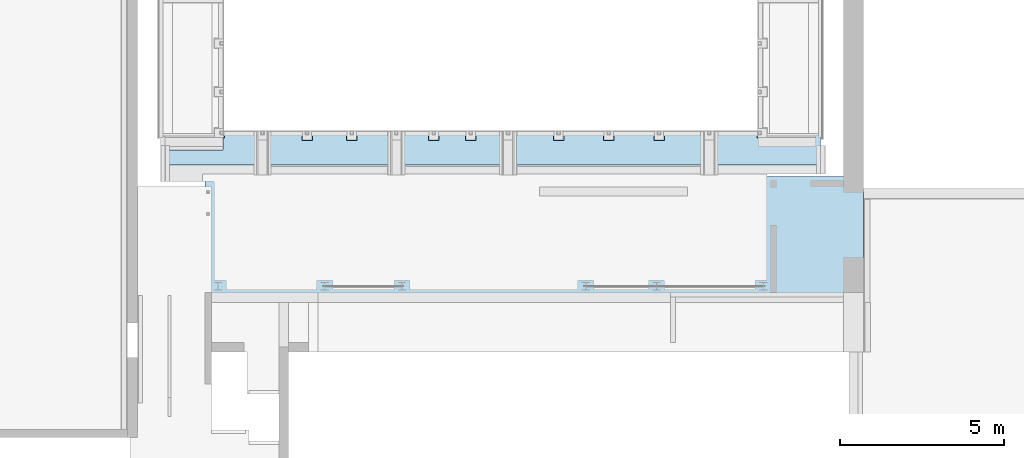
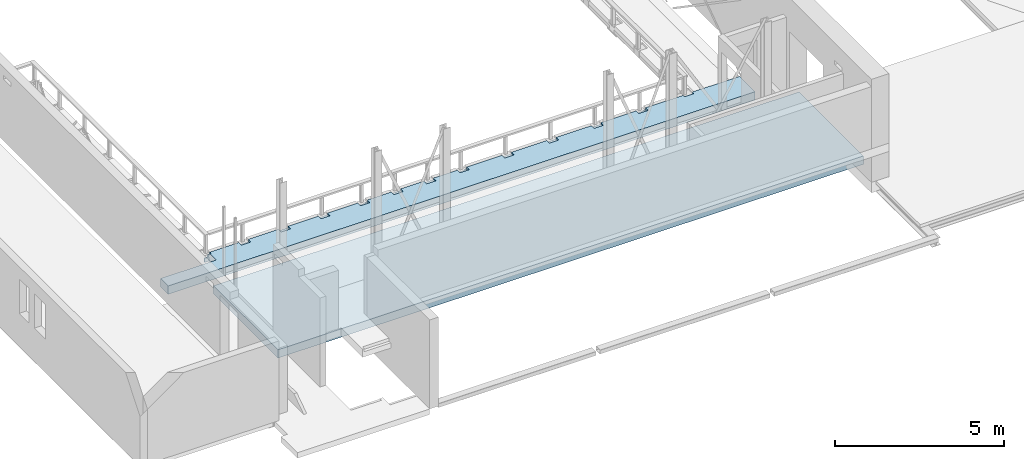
# One storey, part 59 of 68: 2 slabs.
"""IFC2X3 building model written with IfcOpenShell, lengths in millimetres."""

from ifc_helpers import new_model, entity, si_unit, converted_unit, derived_unit, direction, frame, origin, place, context, subcontext, project, spatial, faceted_brep, material, material_list, type_object, element, save


model = new_model("IFC2X3")

# Units and contexts
model_context = context("Model", 3, precision=0.01, world=origin(), true_north=direction((6.12303176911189e-17, 1.0)))
body_context = subcontext(model_context, "Body", "Model", "MODEL_VIEW")
ifc_project = project(units=[si_unit("LENGTHUNIT", "METRE", prefix="MILLI"), si_unit("AREAUNIT", "SQUARE_METRE", prefix="MILLI"), si_unit("VOLUMEUNIT", "CUBIC_METRE"), converted_unit("PLANEANGLEUNIT", "DEGREE", entity("IfcRatioMeasure", 0.0174532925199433), si_unit("PLANEANGLEUNIT", "RADIAN"), dimensions=[0, 0, 0, 0, 0, 0, 0]), si_unit("MASSUNIT", "GRAM", prefix="KILO"), derived_unit("MASSDENSITYUNIT", [(si_unit("MASSUNIT", "GRAM", prefix="KILO"), 1), (si_unit("LENGTHUNIT", "METRE"), -3)]), derived_unit("MOMENTOFINERTIAUNIT", [(si_unit("LENGTHUNIT", "METRE"), 4)]), si_unit("TIMEUNIT", "SECOND"), si_unit("FREQUENCYUNIT", "HERTZ"), si_unit("THERMODYNAMICTEMPERATUREUNIT", "DEGREE_CELSIUS"), derived_unit("THERMALTRANSMITTANCEUNIT", [(si_unit("MASSUNIT", "GRAM", prefix="KILO"), 1), (si_unit("THERMODYNAMICTEMPERATUREUNIT", "KELVIN"), -1), (si_unit("TIMEUNIT", "SECOND"), -3)]), derived_unit("VOLUMETRICFLOWRATEUNIT", [(si_unit("LENGTHUNIT", "METRE"), 3), (si_unit("TIMEUNIT", "SECOND"), -1)]), si_unit("ELECTRICCURRENTUNIT", "AMPERE"), si_unit("ELECTRICVOLTAGEUNIT", "VOLT"), si_unit("POWERUNIT", "WATT"), si_unit("FORCEUNIT", "NEWTON", prefix="KILO"), si_unit("ILLUMINANCEUNIT", "LUX"), si_unit("LUMINOUSFLUXUNIT", "LUMEN"), si_unit("LUMINOUSINTENSITYUNIT", "CANDELA"), derived_unit("USERDEFINED", [(si_unit("MASSUNIT", "GRAM", prefix="KILO"), -1), (si_unit("LENGTHUNIT", "METRE"), -2), (si_unit("TIMEUNIT", "SECOND"), 3), (si_unit("LUMINOUSFLUXUNIT", "LUMEN"), 1)]), derived_unit("LINEARVELOCITYUNIT", [(si_unit("LENGTHUNIT", "METRE"), 1), (si_unit("TIMEUNIT", "SECOND"), -1)]), si_unit("PRESSUREUNIT", "PASCAL"), derived_unit("USERDEFINED", [(si_unit("LENGTHUNIT", "METRE"), -2), (si_unit("MASSUNIT", "GRAM", prefix="KILO"), 1), (si_unit("TIMEUNIT", "SECOND"), -2)]), derived_unit("LINEARFORCEUNIT", [(si_unit("MASSUNIT", "GRAM", prefix="KILO"), 1), (si_unit("LENGTHUNIT", "METRE"), 1), (si_unit("TIMEUNIT", "SECOND"), -2), (si_unit("LENGTHUNIT", "METRE"), -1)]), derived_unit("PLANARFORCEUNIT", [(si_unit("MASSUNIT", "GRAM", prefix="KILO"), 1), (si_unit("LENGTHUNIT", "METRE"), 1), (si_unit("TIMEUNIT", "SECOND"), -2), (si_unit("LENGTHUNIT", "METRE"), -2)])], contexts=[model_context])

# Site, building, storey
site_placement = place(None, origin())
site = spatial("IfcSite", under=ifc_project, at=site_placement, Name="Theater aan de Parade", CompositionType="ELEMENT")
building_placement = place(site_placement, origin())
building = spatial("IfcBuilding", under=site, at=building_placement, Name="Theater aan de Parade", CompositionType="ELEMENT")
storey_placement = place(building_placement, frame((0.0, 0.0, 8750.0)))
storey = spatial("IfcBuildingStorey", under=building, at=storey_placement, Name="02 tweede verdieping", CompositionType="ELEMENT", Elevation=8750.0)

# Slabs
ifc_material_1 = material(Name="00_PBT_MAT_beton t.p.g._C30/37")
slab_type_1 = type_object("IfcSlabType", Name="Floor:28_PBT_FL_beton t.p.g._d=300_C30/37", PredefinedType="FLOOR")
slab_1_placement = place(storey_placement, origin())
element("IfcSlab", 1, at=slab_1_placement, inside=storey, type_object=slab_type_1, material=ifc_material_1, Name="Floor:28_PBT_FL_beton t.p.g._d=300_C30/37", ObjectType="Floor:28_PBT_FL_beton t.p.g._d=300_C30/37", PredefinedType="FLOOR", context=body_context, shape_type="Brep", body=[
    faceted_brep([(36853.8581300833, 18011.30845444, -550.0), (32090.858196, 17556.058446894, -550.0), (32090.858196, 17566.558446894, -550.0), (27590.858196, 17566.558446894, -550.0), (17403.8570025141, 18011.30845444, -550.0), (37453.8581300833, 14186.290696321, -550.0), (37453.8581300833, 17411.308446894, -550.0), (37453.8581300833, 18011.30845444, -550.0), (27590.858196, 17556.058446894, -550.0), (17403.8570025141, 14186.290696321, -550.0), (17403.8570025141, 17411.3084468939, -550.0), (17403.8570025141, 17711.3084468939, -550.0), (37453.8581300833, 14186.290696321, -250.0), (37453.8581300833, 17492.994375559, -250.0), (37453.8581300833, 17650.244375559, -250.0), (37453.8581300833, 18011.30845444, -250.0), (36853.8581300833, 18011.30845444, -250.0), (17403.8570025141, 18011.30845444, -250.0), (17403.8570025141, 17711.308446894, -250.0), (17403.8570025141, 14186.290696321, -250.0), (17603.8570025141, 14186.290696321, -250.0), (36853.8581300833, 14186.290696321, -250.0), (37453.8581300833, 14186.290696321, -460.0), (37453.8581300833, 14186.290696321, -285.0), (17403.8570025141, 14186.290696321, -290.0), (32090.858196, 17566.558446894, -392.0), (32090.858196, 17556.058446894, -392.0), (32090.858196, 17554.3010875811, -387.757359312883), (32090.858196, 17552.5437282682, -383.514718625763), (32090.858196, 17550.7863689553, -379.272077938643), (32090.858196, 17549.0290096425, -375.029437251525), (32090.858196, 17545.1311037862, -373.414871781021), (32090.858196, 17541.23319793, -371.800306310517), (32090.858196, 17536.645822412, -369.900153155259), (32090.858196, 17532.058446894, -368.0), (32090.858196, 17421.308446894, -368.0), (32090.858196, 17421.308446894, -350.0), (32090.858196, 17701.308446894, -350.0), (32090.858196, 17701.308446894, -368.0), (32090.858196, 17590.558446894, -368.0), (32090.858196, 17586.3158062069, -369.757359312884), (32090.858196, 17582.0731655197, -371.514718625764), (32090.858196, 17577.8305248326, -373.272077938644), (32090.858196, 17573.5878841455, -375.029437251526), (32090.858196, 17571.973318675, -378.927343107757), (32090.858196, 17570.3587532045, -382.825248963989), (32090.858196, 17568.4586000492, -387.412624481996), (27590.858196, 17566.558446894, -392.0), (27590.858196, 17568.4586000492, -387.412624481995), (27590.858196, 17570.0731655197, -383.514718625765), (27590.858196, 17571.8305248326, -379.272077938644), (27590.858196, 17573.5878841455, -375.029437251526), (27590.858196, 17577.8305248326, -373.272077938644), (27590.858196, 17582.0731655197, -371.514718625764), (27590.858196, 17585.971071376, -369.900153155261), (27590.858196, 17590.558446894, -368.0), (27590.858196, 17701.308446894, -368.0), (27590.858196, 17701.308446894, -350.0), (27590.858196, 17421.308446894, -350.0), (27590.858196, 17421.308446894, -368.0), (27590.858196, 17532.058446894, -368.0), (27590.858196, 17536.645822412, -369.900153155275), (27590.858196, 17540.5437282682, -371.514718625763), (27590.858196, 17544.7863689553, -373.272077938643), (27590.858196, 17549.0290096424, -375.029437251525), (27590.858196, 17550.7863689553, -379.272077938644), (27590.858196, 17552.5437282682, -383.514718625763), (27590.858196, 17554.1582937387, -387.412624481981), (27590.858196, 17556.058446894, -392.0)], [[[0, 1, 2]], [[0, 2, 3]], [[3, 4, 0]], [[0, 5, 1]], [[5, 0, 6]], [[6, 0, 7]], [[1, 5, 8]], [[9, 8, 5]], [[8, 9, 10]], [[11, 3, 10]], [[8, 10, 3]], [[4, 3, 11]], [[12, 13, 14, 15, 16, 17, 18, 19, 20, 21]], [[22, 5, 6, 7, 15, 14, 13, 12, 23]], [[9, 5, 22, 23, 12, 21, 20, 19, 24]], [[10, 9, 24, 19, 18, 17, 4, 11]], [[0, 4, 17, 16, 15, 7]], [[25, 2, 1, 26, 27, 28, 29, 30, 31, 32, 33, 34, 35, 36, 37, 38, 39, 40, 41, 42, 43, 44, 45, 46]], [[47, 48, 49, 50, 51, 52, 53, 54, 55, 56, 57, 58, 59, 60, 61, 62, 63, 64, 65, 66, 67, 68, 8, 3]], [[58, 36, 35, 59]], [[59, 35, 34, 60]], [[55, 39, 38, 56]], [[32, 31, 30, 64, 63, 62, 61, 60, 34, 33]], [[64, 30, 29, 28, 27, 26, 68, 67, 66, 65]], [[68, 26, 1, 8]], [[3, 2, 25, 47]], [[45, 44, 43, 51, 50, 49, 48, 47, 25, 46]], [[51, 43, 42, 41, 40, 39, 55, 54, 53, 52]], [[57, 56, 38, 37]], [[58, 57, 37, 36]]]),
])
ifc_material_2 = material(Name="00_PBT_MAT_staal")
ifc_material_list = material_list([ifc_material_1, ifc_material_2])
slab_type_2 = type_object("IfcSlabType", Name="Floor:28_PBT_FL_staalplaatbeton_d=300_C30/37", PredefinedType="FLOOR")
slab_2_placement = place(storey_placement, origin())
element("IfcSlab", 2, at=slab_2_placement, inside=storey, type_object=slab_type_2, material=ifc_material_list, Name="Floor:28_PBT_FL_staalplaatbeton_d=300_C30/37", ObjectType="Floor:28_PBT_FL_staalplaatbeton_d=300_C30/37", PredefinedType="FLOOR", context=body_context, shape_type="Brep", body=[
    faceted_brep([(17825.8570032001, 19278.2922985, -300.0), (17945.8570032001, 19278.2922985, -300.0), (17945.8570032, 19243.2922985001, -300.0), (17825.8570032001, 19243.2922985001, -300.0), (34588.8574772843, 19278.2922984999, -300.0), (35788.8574772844, 19278.2922984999, -300.0), (36153.8581300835, 19278.2922984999, -300.0), (36153.8581300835, 18361.305865, -300.0), (16053.8570032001, 18361.305865, -300.0), (16053.8570032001, 18816.305865, -300.0), (17960.8570032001, 18816.305865, -300.0), (17960.8570032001, 19063.0422985, -300.0), (17960.8570032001, 19073.5422985, -300.0), (17960.8570032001, 19228.2922985, -300.0), (17960.8570032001, 19266.30672969, -300.0), (17983.8570032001, 19266.30672969, -300.0), (17983.8570032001, 19378.308446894, -300.0), (19016.8570058, 19378.308446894, -300.0), (19016.8570058, 19266.30672969, -300.0), (23372.8581798, 19266.30672969, -300.0), (23372.8581798, 19378.3084468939, -300.0), (26495.3581839, 19378.3084468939, -300.0), (26495.3581839, 19266.30672969, -300.0), (26775.3581839, 19266.30672969, -300.0), (26775.3581839, 19378.3084468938, -300.0), (32620.358192, 19378.3084468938, -300.0), (32620.358192, 19266.30672969, -300.0), (32900.358192, 19266.30672969, -300.0), (32900.358192, 19378.3084468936, -300.0), (34223.8569737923, 19378.3084468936, -300.0), (34223.8569737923, 19266.30672969, -300.0), (34246.8569737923, 19266.30672969, -300.0), (34246.8569737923, 19278.2922984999, -300.0), (34261.8569737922, 19278.2922984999, -300.0), (34381.8569737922, 19278.2922984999, -300.0), (19016.8570058, 19393.308446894, -285.0), (17983.8570032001, 19393.308446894, -285.0), (17983.8570032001, 19393.308446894, -165.0), (19016.8570058, 19393.308446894, -165.0), (34223.8569737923, 19393.308446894, -285.0), (32900.358192, 19393.308446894, -285.0), (32900.358192, 19393.308446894, -165.0), (34223.8569737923, 19393.308446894, -165.0), (32620.358192, 19393.308446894, -285.0), (26775.3581839, 19393.308446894, -285.0), (26775.3581839, 19393.308446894, -165.0), (32620.358192, 19393.308446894, -165.0), (26495.3581839, 19393.308446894, -285.0), (23372.8581798, 19393.308446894, -285.0), (23372.8581798, 19393.308446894, -165.0), (26495.3581839, 19393.308446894, -165.0), (36153.8581300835, 18361.305865, 0.0), (36153.8581300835, 19278.2922984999, 0.0), (35788.8574772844, 19278.2922984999, 0.0), (34588.8574772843, 19278.2922984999, 0.0), (34531.8569737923, 19278.2922984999, 0.0), (34531.8569737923, 19183.3084468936, 0.0), (34211.8569737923, 19183.3084468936, 0.0), (34211.8569737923, 19266.30672969, 0.0), (32920.358192, 19266.30672969, 0.0), (32920.358192, 19108.3084468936, 0.0), (32600.358192, 19108.3084468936, 0.0), (32600.358192, 19266.30672969, 0.0), (31390.358192, 19266.30672969, 0.0), (31390.358192, 19108.3084468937, 0.0), (31070.358192, 19108.3084468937, 0.0), (31070.358192, 19266.30672969, 0.0), (29860.358192, 19266.30672969, 0.0), (29860.358192, 19108.3084468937, 0.0), (29540.358192, 19108.3084468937, 0.0), (29540.358192, 19266.30672969, 0.0), (28330.358192, 19266.30672969, 0.0), (28330.358192, 19108.3084468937, 0.0), (28010.358192, 19108.3084468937, 0.0), (28010.358192, 19266.30672969, 0.0), (26795.8581798, 19266.30672969, 0.0), (26795.8581798, 19108.3084468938, 0.0), (26475.8581798, 19108.3084468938, 0.0), (26475.8581798, 19266.30672969, 0.0), (25655.8581798, 19266.30672969, 0.0), (25655.8581798, 19108.3084468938, 0.0), (25335.8581798, 19108.3084468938, 0.0), (25335.8581798, 19266.30672969, 0.0), (24532.8581798, 19266.30672969, 0.0), (24532.8581798, 19108.3084468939, 0.0), (24212.8581798, 19108.3084468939, 0.0), (24212.8581798, 19266.30672969, 0.0), (23392.8581798, 19266.30672969, 0.0), (23392.8581798, 19108.3084468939, 0.0), (23072.8581798, 19108.3084468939, 0.0), (23072.8581798, 19266.30672969, 0.0), (22032.8581798, 19266.30672969, 0.0), (22032.8581798, 19108.3084468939, 0.0), (21712.8581798, 19108.3084468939, 0.0), (21712.8581798, 19266.30672969, 0.0), (20672.8581798, 19266.30672969, 0.0), (20672.8581798, 19108.308446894, 0.0), (20352.8581798, 19108.308446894, 0.0), (20352.8581798, 19266.30672969, 0.0), (19316.8570058, 19266.30672969, 0.0), (19316.8570058, 19108.308446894, 0.0), (18996.8570058, 19108.308446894, 0.0), (18996.8570058, 19266.30672969, 0.0), (17995.8570032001, 19266.30672969, 0.0), (17995.8570032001, 19183.308446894, 0.0), (17960.8570032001, 19183.308446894, 0.0), (17960.8570032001, 18816.305865, 0.0), (16053.8570032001, 18816.305865, 0.0), (16053.8570032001, 18361.305865, 0.0), (34246.8569737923, 19278.2922984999, -285.0), (34246.8569737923, 19278.2922984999, -165.0), (34246.8569737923, 19278.2922984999, -60.0), (34531.8569737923, 19278.2922984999, -60.0), (17814.1520519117, 19278.2922985, -292.954951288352), (17813.0537023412, 19278.2922985, -290.303300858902), (17811.9553527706, 19278.2922985, -287.651650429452), (17810.8570032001, 19278.2922985, -285.0), (17810.8570032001, 19278.2922985, -165.0), (17811.9553527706, 19278.2922985, -162.348349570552), (17813.0537023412, 19278.2922985, -159.6966991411), (17814.1520519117, 19278.2922985, -157.04504871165), (17815.2504014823, 19278.2922985, -154.393398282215), (17817.9020519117, 19278.2922985, -153.295048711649), (17820.5537023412, 19278.2922985, -152.1966991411), (17823.5802349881, 19278.2922985, -150.943068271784), (17825.8570032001, 19278.2922985, -150.0), (17945.8570032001, 19278.2922985, -150.0), (17948.5086536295, 19278.2922985, -151.098349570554), (17951.160304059, 19278.2922985, -152.196699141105), (17953.8119544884, 19278.2922985, -153.295048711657), (17956.4636049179, 19278.2922985, -154.393398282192), (17957.5619544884, 19278.2922985, -157.045048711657), (17958.660304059, 19278.2922985, -159.696699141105), (17959.9139349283, 19278.2922985, -162.723231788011), (17960.8570032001, 19278.2922985, -165.0), (17960.8570032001, 19278.2922985, -285.0), (17958.9708666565, 19278.2922985, -289.553536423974), (17957.7172357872, 19278.2922985, -292.580069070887), (17956.4636049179, 19278.2922985, -295.606601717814), (17953.4370722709, 19278.2922985, -296.860232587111), (17950.410539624, 19278.2922985, -298.113863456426), (17823.2053527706, 19278.2922985, -298.901650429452), (17820.5537023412, 19278.2922985, -297.803300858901), (17817.9020519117, 19278.2922985, -296.704951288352), (17815.2504014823, 19278.2922985, -295.606601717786), (17983.8570032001, 19266.30672969, -150.0), (17983.8570032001, 19378.308446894, -150.0), (17983.8570032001, 19380.7769661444, -151.0224941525), (17983.8570032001, 19383.2454853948, -152.044988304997), (17983.8570032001, 19386.0802670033, -153.219193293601), (17983.8570032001, 19388.9150486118, -154.393398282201), (17983.8570032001, 19390.0133981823, -157.045048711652), (17983.8570032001, 19391.1117477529, -159.696699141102), (17983.8570032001, 19392.2100973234, -162.348349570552), (17983.8570032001, 19392.2859527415, -287.468519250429), (17983.8570032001, 19391.263458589, -289.937038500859), (17983.8570032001, 19390.0892536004, -292.771820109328), (17983.8570032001, 19388.9150486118, -295.6066017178), (17983.8570032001, 19386.2633981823, -296.704951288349), (17983.8570032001, 19383.6117477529, -297.803300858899), (17983.8570032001, 19380.9600973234, -298.90165042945), (34246.8569737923, 19266.30672969, -60.0), (17960.8570032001, 19266.30672969, -165.0), (17960.8570032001, 19266.30672969, -285.0), (32620.358192, 19266.30672969, -150.0), (26775.3581839, 19266.30672969, -150.0), (26495.3581839, 19266.30672969, -150.0), (23372.8581798, 19266.30672969, -150.0), (19016.8570058, 19266.30672969, -150.0), (17960.8570032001, 19266.30672969, -60.0), (17995.8570032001, 19266.30672969, -60.0), (18996.8570058, 19266.30672969, -85.0), (19316.8570058, 19266.30672969, -85.0), (20352.8581798, 19266.30672969, -60.0), (20672.8581798, 19266.30672969, -60.0), (21712.8581798, 19266.30672969, -60.0), (22032.8581798, 19266.30672969, -60.0), (23072.8581798, 19266.30672969, -85.0), (23392.8581798, 19266.30672969, -85.0), (24212.8581798, 19266.30672969, -60.0), (24532.8581798, 19266.30672969, -60.0), (25335.8581798, 19266.30672969, -60.0), (25655.8581798, 19266.30672969, -60.0), (26475.8581798, 19266.30672969, -85.0), (26795.8581798, 19266.30672969, -85.0), (28010.358192, 19266.30672969, -60.0), (28330.358192, 19266.30672969, -60.0), (29540.358192, 19266.30672969, -60.0), (29860.358192, 19266.30672969, -60.0), (31070.358192, 19266.30672969, -60.0), (31390.358192, 19266.30672969, -60.0), (32600.358192, 19266.30672969, -85.0), (32920.358192, 19266.30672969, -85.0), (34211.8569737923, 19266.30672969, -60.0), (34223.8569737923, 19266.30672969, -150.0), (32900.358192, 19266.30672969, -150.0), (23372.8581798, 19378.3084468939, -150.0), (23372.8581798, 19380.9600973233, -151.098349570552), (23372.8581798, 19383.6117477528, -152.196699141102), (23372.8581798, 19386.2633981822, -153.295048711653), (23372.8581798, 19388.9150486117, -154.393398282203), (23372.8581798, 19390.0133981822, -157.045048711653), (23372.8581798, 19391.1117477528, -159.696699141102), (23372.8581798, 19391.955381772, -161.733411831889), (23372.8581798, 19392.2100973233, -287.651650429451), (23372.8581798, 19391.1117477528, -290.3033008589), (23372.8581798, 19390.0133981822, -292.95495128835), (23372.8581798, 19388.9150486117, -295.6066017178), (23372.8581798, 19386.2633981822, -296.70495128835), (23372.8581798, 19383.6117477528, -297.8033008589), (23372.8581798, 19381.575035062, -298.64693487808), (26495.3581839, 19392.2100973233, -162.348349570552), (26495.3581839, 19391.1117477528, -159.696699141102), (26495.3581839, 19390.0133981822, -157.045048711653), (26495.3581839, 19388.9150486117, -154.393398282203), (26495.3581839, 19384.8416232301, -152.706130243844), (26495.3581839, 19381.575035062, -151.353065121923), (26495.3581839, 19378.3084468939, -150.0), (26495.3581839, 19380.9600973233, -298.901650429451), (26495.3581839, 19383.6117477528, -297.8033008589), (26495.3581839, 19386.2633981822, -296.70495128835), (26495.3581839, 19388.9150486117, -295.6066017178), (26495.3581839, 19390.60231665, -291.533176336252), (26495.3581839, 19391.9553817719, -288.266588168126), (32620.358192, 19378.3084468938, -150.0), (26775.3581839, 19378.3084468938, -150.0), (19016.8570058, 19378.308446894, -150.0), (34223.8569737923, 19378.3084468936, -150.0), (32900.358192, 19378.3084468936, -150.0), (17945.8570032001, 19243.2922985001, -150.0), (17825.8570032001, 19243.2922985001, -150.0), (26775.3581839, 19380.9600973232, -151.098349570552), (26775.3581839, 19383.6117477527, -152.196699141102), (26775.3581839, 19386.2633981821, -153.295048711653), (26775.3581839, 19388.9150486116, -154.393398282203), (26775.3581839, 19390.0133981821, -157.045048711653), (26775.3581839, 19391.1117477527, -159.696699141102), (26775.3581839, 19392.5015416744, -163.051958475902), (26775.3581839, 19392.2100973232, -287.651650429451), (26775.3581839, 19391.1117477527, -290.3033008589), (26775.3581839, 19390.0133981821, -292.954951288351), (26775.3581839, 19388.9150486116, -295.6066017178), (26775.3581839, 19386.2633981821, -296.70495128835), (26775.3581839, 19383.6117477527, -297.8033008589), (26775.3581839, 19380.2564884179, -299.193094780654), (32620.358192, 19392.2100973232, -162.348349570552), (32620.358192, 19391.1117477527, -159.696699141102), (32620.358192, 19390.0133981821, -157.045048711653), (32620.358192, 19388.9150486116, -154.393398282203), (32620.358192, 19385.5597892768, -153.00360436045), (32620.358192, 19382.204529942, -151.613810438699), (32620.358192, 19380.9600973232, -298.901650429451), (32620.358192, 19383.6117477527, -297.8033008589), (32620.358192, 19386.2633981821, -296.704951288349), (32620.358192, 19388.9150486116, -295.6066017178), (32620.358192, 19390.3048425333, -292.251342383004), (32620.358192, 19391.6946364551, -288.896083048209), (17948.5086536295, 19243.2922985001, -298.90165042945), (17951.160304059, 19243.2922985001, -297.803300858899), (17953.8119544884, 19243.2922985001, -296.704951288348), (17956.4636049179, 19243.2922985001, -295.606601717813), (17957.5619544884, 19243.2922985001, -292.954951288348), (17958.660304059, 19243.2922985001, -290.3033008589), (17959.9139349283, 19243.2922985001, -287.276768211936), (17960.8570032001, 19243.2922985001, -285.0), (17960.8570032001, 19243.2922985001, -165.0), (17958.9708666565, 19243.2922985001, -160.446463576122), (17957.7172357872, 19243.2922985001, -157.419930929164), (17956.4636049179, 19243.2922985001, -154.393398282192), (17953.4370722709, 19243.2922985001, -153.139767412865), (17950.4105396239, 19243.2922985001, -151.886136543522), (17823.2053527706, 19243.2922985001, -151.098349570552), (17820.5537023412, 19243.2922985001, -152.196699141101), (17817.9020519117, 19243.2922985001, -153.295048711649), (17815.2504014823, 19243.2922985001, -154.393398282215), (17813.9967706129, 19243.2922985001, -157.419930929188), (17812.7431397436, 19243.2922985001, -160.446463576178), (17810.8570032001, 19243.2922985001, -165.0), (17810.8570032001, 19243.2922985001, -285.0), (17811.9553527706, 19243.2922985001, -287.651650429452), (17813.0537023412, 19243.2922985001, -290.303300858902), (17814.1520519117, 19243.2922985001, -292.954951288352), (17815.2504014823, 19243.2922985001, -295.606601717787), (17818.2769341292, 19243.2922985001, -296.860232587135), (17821.3034667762, 19243.2922985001, -298.113863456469), (17960.8570032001, 19183.308446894, -60.0), (17960.8570032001, 19228.2922985, -60.0), (23072.8581798, 19108.3084468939, -85.0), (23392.8581798, 19108.3084468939, -85.0), (19316.8570058, 19108.308446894, -85.0), (18996.8570058, 19108.308446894, -85.0), (32600.358192, 19108.3084468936, -85.0), (32920.358192, 19108.3084468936, -85.0), (26475.8581798, 19108.3084468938, -85.0), (26795.8581798, 19108.3084468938, -85.0), (20352.8581798, 19108.308446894, -60.0), (20672.8581798, 19108.308446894, -60.0), (21712.8581798, 19108.3084468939, -60.0), (22032.8581798, 19108.3084468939, -60.0), (31390.358192, 19108.3084468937, -60.0), (31070.358192, 19108.3084468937, -60.0), (29860.358192, 19108.3084468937, -60.0), (29540.358192, 19108.3084468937, -60.0), (28330.358192, 19108.3084468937, -60.0), (28010.358192, 19108.3084468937, -60.0), (25335.8581798, 19108.3084468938, -60.0), (25655.8581798, 19108.3084468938, -60.0), (24212.8581798, 19108.3084468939, -60.0), (24532.8581798, 19108.3084468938, -60.0), (17995.8570032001, 19183.308446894, -60.0), (34211.8569737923, 19183.3084468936, -60.0), (34531.8569737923, 19183.3084468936, -60.0), (19016.8570058, 19392.2859527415, -162.531480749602), (19016.8570058, 19391.1117477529, -159.696699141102), (19016.8570058, 19390.0133981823, -157.045048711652), (19016.8570058, 19388.9150486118, -154.393398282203), (19016.8570058, 19386.2633981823, -153.295048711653), (19016.8570058, 19383.6117477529, -152.196699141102), (19016.8570058, 19380.9600973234, -151.098349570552), (19016.8570058, 19380.7769661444, -298.977505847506), (19016.8570058, 19383.6117477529, -297.8033008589), (19016.8570058, 19386.2633981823, -296.70495128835), (19016.8570058, 19388.9150486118, -295.6066017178), (19016.8570058, 19390.0133981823, -292.95495128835), (19016.8570058, 19391.1117477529, -290.3033008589), (19016.8570058, 19392.2100973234, -287.65165042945), (32900.358192, 19380.9600973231, -151.098349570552), (32900.358192, 19383.6117477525, -152.196699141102), (32900.358192, 19386.263398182, -153.295048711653), (32900.358192, 19388.9150486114, -154.393398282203), (32900.358192, 19390.013398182, -157.045048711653), (32900.358192, 19391.1117477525, -159.696699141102), (32900.358192, 19392.5103830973, -163.073303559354), (32900.358192, 19392.2100973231, -287.651650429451), (32900.358192, 19391.1117477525, -290.3033008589), (32900.358192, 19390.013398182, -292.95495128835), (32900.358192, 19388.9150486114, -295.6066017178), (32900.358192, 19386.263398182, -296.70495128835), (32900.358192, 19383.6117477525, -297.8033008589), (32900.358192, 19380.2351433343, -299.201936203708), (34223.8569737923, 19392.2100973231, -162.348349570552), (34223.8569737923, 19391.1117477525, -159.696699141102), (34223.8569737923, 19390.013398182, -157.045048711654), (34223.8569737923, 19388.9150486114, -154.393398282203), (34223.8569737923, 19385.5384441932, -152.994762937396), (34223.8569737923, 19382.1618397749, -151.59612759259), (34223.8569737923, 19380.9600973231, -298.901650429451), (34223.8569737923, 19383.6117477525, -297.8033008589), (34223.8569737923, 19386.263398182, -296.70495128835), (34223.8569737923, 19388.9150486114, -295.6066017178), (34223.8569737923, 19390.3136839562, -292.229997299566), (34223.8569737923, 19391.712319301, -288.853392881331)], [[[0, 1, 2, 3]], [[4, 5, 6, 7, 8, 9, 10, 11, 12, 13, 14, 15, 16, 17, 18, 19, 20, 21, 22, 23, 24, 25, 26, 27, 28, 29, 30, 31, 32, 33, 34]], [[35, 36, 37, 38]], [[39, 40, 41, 42]], [[43, 44, 45, 46]], [[47, 48, 49, 50]], [[51, 52, 53, 54, 55, 56, 57, 58, 59, 60, 61, 62, 63, 64, 65, 66, 67, 68, 69, 70, 71, 72, 73, 74, 75, 76, 77, 78, 79, 80, 81, 82, 83, 84, 85, 86, 87, 88, 89, 90, 91, 92, 93, 94, 95, 96, 97, 98, 99, 100, 101, 102, 103, 104, 105, 106, 107, 108]], [[9, 8, 108, 107]], [[32, 109, 110, 111, 112, 55, 54, 53, 52, 6, 5, 4, 34, 33]], [[113, 114, 115, 116, 117, 118, 119, 120, 121, 122, 123, 124, 125, 126, 127, 128, 129, 130, 131, 132, 133, 134, 135, 136, 137, 138, 139, 140, 1, 0, 141, 142, 143, 144]], [[7, 6, 52, 51]], [[16, 15, 145, 146, 147, 148, 149, 150, 151, 152, 153, 37, 36, 154, 155, 156, 157, 158, 159, 160]], [[109, 32, 31, 161, 111, 110]], [[134, 162, 163, 135]], [[26, 164, 165, 23, 22, 166, 167, 19, 18, 168, 145, 15, 14, 163, 162, 169, 170, 103, 102, 171, 172, 99, 98, 173, 174, 95, 94, 175, 176, 91, 90, 177, 178, 87, 86, 179, 180, 83, 82, 181, 182, 79, 78, 183, 184, 75, 74, 185, 186, 71, 70, 187, 188, 67, 66, 189, 190, 63, 62, 191, 192, 59, 58, 193, 161, 31, 30, 194, 195, 27]], [[108, 8, 7, 51]], [[20, 19, 167, 196, 197, 198, 199, 200, 201, 202, 203, 49, 48, 204, 205, 206, 207, 208, 209, 210]], [[47, 50, 211, 212, 213, 214, 215, 216, 217, 166, 22, 21, 218, 219, 220, 221, 222, 223]], [[217, 196, 167, 166]], [[164, 224, 225, 165]], [[168, 226, 146, 145]], [[194, 227, 228, 195]], [[229, 126, 125, 230]], [[24, 23, 165, 225, 231, 232, 233, 234, 235, 236, 237, 45, 44, 238, 239, 240, 241, 242, 243, 244]], [[43, 46, 245, 246, 247, 248, 249, 250, 224, 164, 26, 25, 251, 252, 253, 254, 255, 256]], [[107, 106, 10, 9]], [[3, 2, 257, 258, 259, 260, 261, 262, 263, 264, 265, 266, 267, 268, 269, 270, 229, 230, 271, 272, 273, 274, 275, 276, 277, 278, 279, 280, 281, 282, 283, 284]], [[264, 163, 14, 13, 12, 11, 10, 106, 105, 285, 286, 169, 162, 265]], [[287, 288, 178, 177]], [[289, 172, 171, 290]], [[192, 191, 291, 292]], [[293, 294, 184, 183]], [[288, 88, 87, 178]], [[177, 90, 89, 287]], [[287, 89, 88, 288]], [[290, 101, 100, 289]], [[295, 97, 96, 296]], [[297, 93, 92, 298]], [[61, 60, 292, 291]], [[65, 64, 299, 300]], [[69, 68, 301, 302]], [[73, 72, 303, 304]], [[305, 81, 80, 306]], [[293, 77, 76, 294]], [[307, 85, 84, 308]], [[286, 285, 309, 170, 169]], [[295, 296, 174, 173]], [[297, 298, 176, 175]], [[161, 193, 310, 311, 112, 111]], [[190, 189, 300, 299]], [[188, 187, 302, 301]], [[186, 185, 304, 303]], [[305, 306, 182, 181]], [[307, 308, 180, 179]], [[285, 105, 104, 309]], [[57, 56, 311, 310]], [[309, 104, 103, 170]], [[289, 100, 99, 172]], [[171, 102, 101, 290]], [[174, 296, 96, 95]], [[173, 98, 97, 295]], [[298, 92, 91, 176]], [[175, 94, 93, 297]], [[35, 38, 312, 313, 314, 315, 316, 317, 318, 226, 168, 18, 17, 319, 320, 321, 322, 323, 324, 325]], [[28, 27, 195, 228, 326, 327, 328, 329, 330, 331, 332, 41, 40, 333, 334, 335, 336, 337, 338, 339]], [[278, 277, 117, 116]], [[113, 144, 282, 281, 280, 279, 278, 116, 115, 114]], [[283, 282, 144, 143, 142, 141, 0, 3, 284]], [[271, 230, 125, 124, 123, 122, 121, 274, 273, 272]], [[120, 119, 118, 117, 277, 276, 275, 274, 121]], [[58, 57, 310, 193]], [[56, 55, 112, 311]], [[62, 61, 291, 191]], [[60, 59, 192, 292]], [[66, 65, 300, 189]], [[64, 63, 190, 299]], [[70, 69, 302, 187]], [[68, 67, 188, 301]], [[74, 73, 304, 185]], [[72, 71, 186, 303]], [[306, 80, 79, 182]], [[181, 82, 81, 305]], [[294, 76, 75, 184]], [[183, 78, 77, 293]], [[180, 308, 84, 83]], [[179, 86, 85, 307]], [[139, 138, 260, 259, 258, 257, 2, 1, 140]], [[137, 136, 135, 163, 264, 263, 262, 261, 260, 138]], [[133, 132, 131, 130, 268, 267, 266, 265, 162, 134]], [[269, 268, 130, 129, 128, 127, 126, 229, 270]], [[39, 42, 340, 341, 342, 343, 344, 345, 227, 194, 30, 29, 346, 347, 348, 349, 350, 351]], [[319, 17, 16, 160, 159, 158, 157, 322, 321, 320]], [[346, 29, 28, 339, 338, 337, 336, 349, 348, 347]], [[25, 24, 244, 243, 242, 241, 254, 253, 252, 251]], [[220, 219, 218, 21, 20, 210, 209, 208, 207, 221]], [[322, 157, 156, 155, 154, 36, 35, 325, 324, 323]], [[335, 334, 333, 40, 39, 351, 350, 349, 336]], [[256, 255, 254, 241, 240, 239, 238, 44, 43]], [[223, 222, 221, 207, 206, 205, 204, 48, 47]], [[312, 38, 37, 153, 152, 151, 150, 315, 314, 313]], [[340, 42, 41, 332, 331, 330, 329, 343, 342, 341]], [[46, 45, 237, 236, 235, 234, 248, 247, 246, 245]], [[213, 212, 211, 50, 49, 203, 202, 201, 200, 214]], [[315, 150, 149, 148, 147, 146, 226, 318, 317, 316]], [[328, 327, 326, 228, 227, 345, 344, 343, 329]], [[250, 249, 248, 234, 233, 232, 231, 225, 224]], [[216, 215, 214, 200, 199, 198, 197, 196, 217]]]),
])

save(model, "model.ifc")
